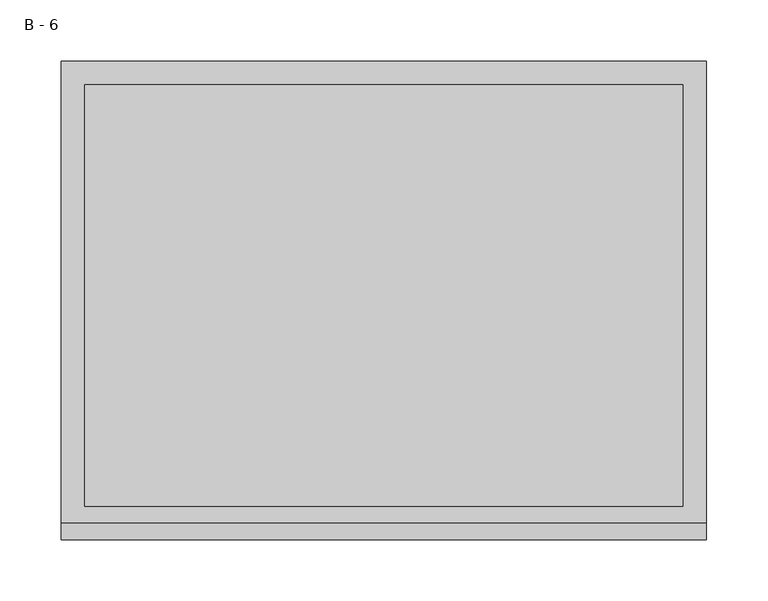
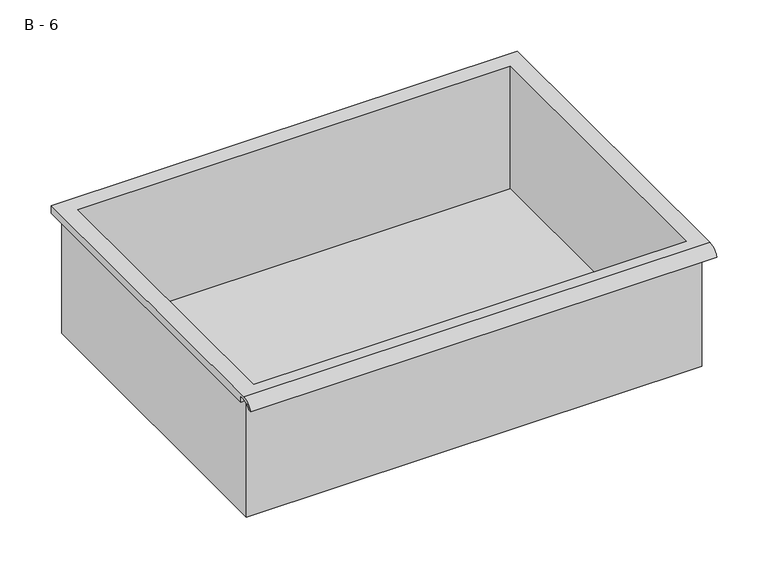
"""IFC4 building model written with IfcOpenShell, lengths in millimetres: furniture geometry, HermanMiller_CoStruc_CO207_Drawer : B - 6."""

from ifc_helpers import new_model, si_unit, frame, origin, place, context, project, spatial, polyline, circle_curve, source, transform, mapped, element, save
from ifc_brep_helpers import plane_surface, cylinder_surface, revolved_surface, advanced_brep


def b_6_80401fae(model_context):
    return source(origin(), model_context, "Body", "AdvancedBrep", [
        advanced_brep(
        [(-257.1076517, -176.2125, 561.18252), (257.2423483, -176.2125, 561.18252), (257.2423483, -176.2125, 700.88252), (263.5923483, -176.2125, 700.88252), (263.5923483, -176.2125, 707.1896541), (-263.4576517, -176.2125, 707.1896541), (-263.4576517, -176.2125, 700.88252), (-257.1076517, -176.2125, 700.88252), (257.2423483, 185.7375, 561.18252), (-257.1076517, 185.7375, 561.18252), (-257.1076517, 185.7375, 700.88252), (257.2423483, 185.7375, 700.88252), (263.5923483, -181.6070544, 710.40752), (263.5923483, 195.2625, 710.40752), (-263.4576517, 195.2625, 710.40752), (-263.4576517, -181.6070544, 710.40752), (244.5423483, -168.275, 710.40752), (-244.4076517, -168.275, 710.40752), (-244.4076517, 176.2125, 710.40752), (244.5423483, 176.2125, 710.40752), (263.5923483, -195.2625, 700.88252), (263.5923483, -191.8280601, 700.88252), (263.5923483, -180.4714815, 707.1896541), (263.5923483, 195.2625, 700.88252), (-263.4576517, 195.2625, 700.88252), (-263.4576517, -180.4714815, 707.1896541), (-263.4576517, -191.8280601, 700.88252), (-263.4576517, -195.2625, 700.88252), (-244.4076517, -168.275, 564.2086919), (244.5423483, -168.275, 564.2086919), (244.5423483, 176.2125, 564.2086919), (-244.4076517, 176.2125, 564.2086919)],
        [
            (0, 1),
            (1, 2),
            (2, 3),
            (3, 4),
            (4, 5),
            (5, 6),
            (6, 7),
            (7, 0),
            (8, 9),
            (9, 10),
            (10, 11),
            (11, 8),
            (0, 9),
            (8, 1),
            (11, 2),
            (12, 13),
            (13, 14),
            (14, 15),
            (15, 12),
            (16, 17),
            (17, 18),
            (18, 19),
            (19, 16),
            (7, 10),
            (12, 20, circle_curve(frame((263.5923483, -181.6070544, 695.8565059), z_axis=(1.0, 0.0, 0.0), x_axis=(0.0, 1.0, 0.0)), 14.5510141)),
            (20, 21),
            (21, 22, circle_curve(frame((263.5923483, -181.6070544, 695.8565059), z_axis=(-1.0, 0.0, 0.0), x_axis=(0.0, 1.0, 0.0)), 11.3898979)),
            (22, 4),
            (3, 23),
            (23, 13),
            (14, 24),
            (24, 6),
            (5, 25),
            (25, 26, circle_curve(frame((-263.4576517, -181.6070544, 695.8565059), z_axis=(1.0, 0.0, 0.0), x_axis=(0.0, 1.0, 0.0)), 11.3898979)),
            (26, 27),
            (27, 15, circle_curve(frame((-263.4576517, -181.6070544, 695.8565059), z_axis=(-1.0, 0.0, 0.0), x_axis=(0.0, 1.0, 0.0)), 14.5510141)),
            (27, 20),
            (26, 21),
            (25, 22),
            (24, 23),
            (28, 29),
            (29, 30),
            (30, 31),
            (31, 28),
            (28, 17),
            (16, 29),
            (19, 30),
            (18, 31),
        ],
        [
            plane_surface(frame((257.2423483, -176.2125, 561.18252), z_axis=(0.0, -1.0, 0.0), x_axis=(1.0, 0.0, 0.0))),
            plane_surface(frame((257.2423483, 185.7375, 561.18252), z_axis=(0.0, 1.0, 0.0), x_axis=(-1.0, 0.0, 0.0))),
            plane_surface(frame((-257.1076517, -176.2125, 561.18252), z_axis=(0.0, 0.0, -1.0), x_axis=(0.0, 1.0, 0.0))),
            plane_surface(frame((257.2423483, -176.2125, 561.18252), z_axis=(1.0, 0.0, 0.0), x_axis=(0.0, 1.0, 0.0))),
            plane_surface(frame((257.2423483, -176.2125, 710.40752), z_axis=(0.0, 0.0, 1.0), x_axis=(0.0, 1.0, 0.0))),
            plane_surface(frame((-257.1076517, -176.2125, 710.40752), z_axis=(-1.0, 0.0, 0.0), x_axis=(0.0, 1.0, 0.0))),
            plane_surface(frame((263.5923483, 195.2625, 710.40752), z_axis=(1.0, 0.0, 0.0), x_axis=(0.0, -1.0, 0.0))),
            plane_surface(frame((-263.4576517, 195.2625, 710.40752), z_axis=(-1.0, 0.0, 0.0), x_axis=(0.0, 1.0, 0.0))),
            cylinder_surface(frame((-263.4576517, -181.6070544, 695.8565059), z_axis=(1.0, 0.0, 0.0), x_axis=(0.0, 1.0, 0.0)), 14.5510141),
            plane_surface(frame((263.5923483, -195.2625, 700.88252), z_axis=(0.0, -7.330645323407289e-12, -1.0), x_axis=(-1.0, 0.0, 0.0))),
            revolved_surface(polyline([(-263.4576517, -170.21715650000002, 695.8565059), (263.59234829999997, -170.21715650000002, 695.8565059)]), (-263.4576517, -181.6070544, 695.8565059), (-1.0, 0.0, 0.0)),
            plane_surface(frame((263.5923483, -180.4714815, 707.1896541), z_axis=(0.0, -1.8083883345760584e-11, -1.0), x_axis=(-1.0, 0.0, 0.0))),
            plane_surface(frame((263.5923483, -176.2125, 700.88252), z_axis=(0.0, 0.0, -1.0), x_axis=(-1.0, 0.0, 0.0))),
            plane_surface(frame((263.5923483, 195.2625, 700.88252), z_axis=(0.0, 1.0, 0.0), x_axis=(-1.0, 0.0, 0.0))),
            plane_surface(frame((244.5423483, -168.275, 564.2086919), z_axis=(0.0, 0.0, 1.0), x_axis=(-1.0, 0.0, 0.0))),
            plane_surface(frame((-244.4076517, -168.275, 710.40752), z_axis=(0.0, 1.0, 0.0), x_axis=(0.0, 0.0, -1.0))),
            plane_surface(frame((244.5423483, -168.275, 710.40752), z_axis=(-1.0, 0.0, 0.0), x_axis=(0.0, 0.0, -1.0))),
            plane_surface(frame((244.5423483, 176.2125, 710.40752), z_axis=(0.0, -1.0, 0.0), x_axis=(0.0, 0.0, -1.0))),
            plane_surface(frame((-244.4076517, 176.2125, 710.40752), z_axis=(1.0, 0.0, 0.0), x_axis=(0.0, 0.0, -1.0))),
        ],
        [
            (0, [[1, 2, 3, 4, 5, 6, 7, 8]]),
            (1, [[9, 10, 11, 12]]),
            (2, [[-1, 13, -9, 14]]),
            (3, [[-14, -12, 15, -2]]),
            (4, [[16, 17, 18, 19], [20, 21, 22, 23]]),
            (5, [[-13, -8, 24, -10]]),
            (6, [[-16, 25, 26, 27, 28, -4, 29, 30]]),
            (7, [[31, 32, -6, 33, 34, 35, 36, -18]]),
            (8, [[-25, -19, -36, 37]]),
            (9, [[-26, -37, -35, 38]]),
            (10, [[-27, -38, -34, 39]]),
            (11, [[-28, -39, -33, -5]]),
            (12, [[-29, -3, -15, -11, -24, -7, -32, 40]]),
            (13, [[-30, -40, -31, -17]]),
            (14, [[41, 42, 43, 44]]),
            (15, [[-41, 45, -20, 46]]),
            (16, [[-42, -46, -23, 47]]),
            (17, [[-43, -47, -22, 48]]),
            (18, [[-44, -48, -21, -45]]),
        ],
    ),
    ])


if __name__ == "__main__":
    model = new_model("IFC4")
    model_context = context("Model", 3, world=origin())
    ifc_project = project(units=[si_unit("LENGTHUNIT", "METRE", prefix="MILLI")], contexts=[model_context])
    site = spatial("IfcSite", under=ifc_project)
    building = spatial("IfcBuilding", under=site)
    placement = place(None, origin())
    b_6_shape = b_6_80401fae(model_context)
    element("IfcFurniture", 1, ObjectType="HermanMiller_CoStruc_CO207_Drawer : B - 6", at=placement, inside=building, context=model_context, shape_type="MappedRepresentation", body=[
        mapped(b_6_shape, transform((0.0, 0.0, 0.0), x_axis=(1.0, 0.0, 0.0), y_axis=(0.0, 1.0, 0.0), z_axis=(0.0, 0.0, 1.0))),
    ])
    save(model, "model.ifc")
